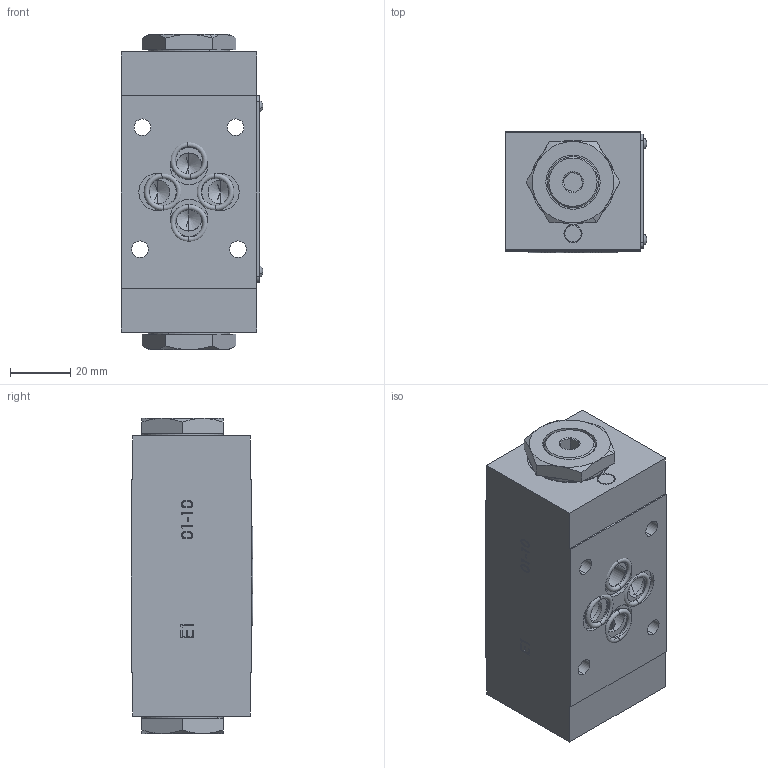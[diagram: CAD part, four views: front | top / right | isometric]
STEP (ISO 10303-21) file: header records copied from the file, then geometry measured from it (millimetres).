
FILE_DESCRIPTION (( 'STEP AP214' ), '1' );
FILE_NAME ('FT357-8-AB-RP5-03.STEP', '2014-06-17T07:49:14', ( '' ), ( '' ), 'SwSTEP 2.0', 'SolidWorks 2014', '' );
FILE_SCHEMA (( 'AUTOMOTIVE_DESIGN' ));
Length unit declared in the file: millimetre
Products named in the file (16): FT357-8-AB-RP5-03; RIVETTO 375-4-P; 357-8-AB-RP5-019-00-0; 357-8-AB-RP5-015-00-0; 357-8-AB-RP5-001-00-0; HK060CK55-111; OR2037; OR3068; FT245_6-14; 2257-6-009001; 280-5-021000; 245-6-001000; OR2043; AnelloFT267_2-38; OR2050; 257-5-008001
Assembly tree (25 placements, depth 3):
  FT357-8-AB-RP5-03
    FT245_6-14  x2
      257-5-008001
      OR2050
      AnelloFT267_2-38
      OR2043
      245-6-001000
      280-5-021000
      2257-6-009001
    OR3068  x2
    OR2037  x4
    HK060CK55-111  x2
    357-8-AB-RP5-001-00-0
    357-8-AB-RP5-015-00-0
    357-8-AB-RP5-019-00-0
    RIVETTO 375-4-P  x4
Bounding box: 47 x 40.38 x 104.6 mm (x, y, z)
Volume: 159365.9 mm3; surface area: 54029.7 mm2
Topology: 31 solids, 31 shells, 2073 faces, 5208 edges, 3356 vertices
Faces by surface type: plane 1071, bspline 394, cylinder 350, cone 202, torus 56
Entity records: 91913 total; most frequent: CARTESIAN_POINT 36717, ORIENTED_EDGE 9112, DIRECTION 7119, EDGE_CURVE 4556, LINE 3059, VECTOR 3059, VERTEX_POINT 2980, EDGE_LOOP 2044
